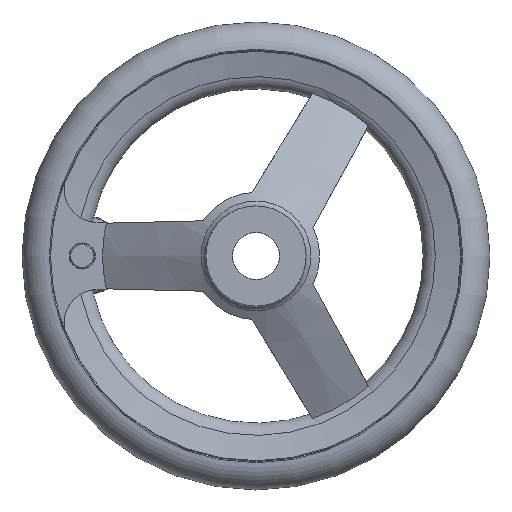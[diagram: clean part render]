
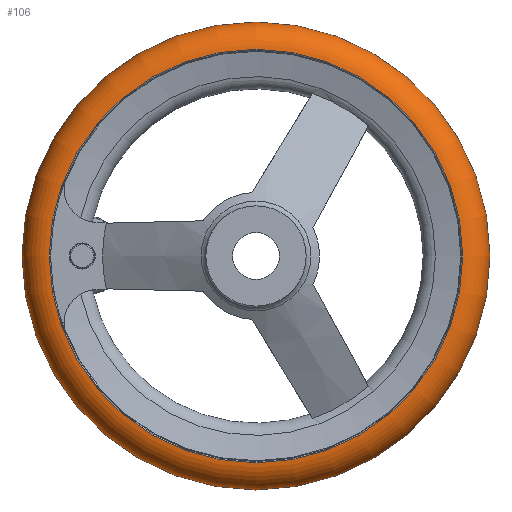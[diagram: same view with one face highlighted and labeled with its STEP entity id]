
A CAD part, left-side view. The second image highlights one B-rep face of the part: STEP entity #106.
In plain terms, the highlighted toroidal (fillet/blend) face has major radius 61.492 mm and minor radius 8.508 mm.
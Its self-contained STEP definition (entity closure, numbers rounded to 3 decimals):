
#106 = ADVANCED_FACE( '', ( #202, #203, #204 ), #205, .T. );
#202 = FACE_BOUND( '', #353, .T. );
#203 = FACE_OUTER_BOUND( '', #354, .T. );
#204 = FACE_OUTER_BOUND( '', #355, .T. );
#205 = TOROIDAL_SURFACE( '', #356, 61.492, 8.508 );
#353 = VERTEX_LOOP( '', #627 );
#354 = EDGE_LOOP( '', ( #628 ) );
#355 = EDGE_LOOP( '', ( #629 ) );
#356 = AXIS2_PLACEMENT_3D( '', #630, #631, #632 );
#627 = VERTEX_POINT( '', #790 );
#628 = ORIENTED_EDGE( '', *, *, #789, .T. );
#629 = ORIENTED_EDGE( '', *, *, #783, .F. );
#630 = CARTESIAN_POINT( '', ( 30.5, 0., 0. ) );
#631 = DIRECTION( '', ( 1., 0., 0. ) );
#632 = DIRECTION( '', ( 0., 1., 0. ) );
#783 = EDGE_CURVE( '', #933, #933, #934, .T. );
#789 = EDGE_CURVE( '', #944, #944, #945, .T. );
#790 = CARTESIAN_POINT( '', ( 30.5, 70., 0. ) );
#933 = VERTEX_POINT( '', #1493 );
#934 = CIRCLE( '', #1494, 61.854 );
#944 = VERTEX_POINT( '', #1504 );
#945 = CIRCLE( '', #1505, 61.854 );
#1493 = CARTESIAN_POINT( '', ( 39., 61.854, 0. ) );
#1494 = AXIS2_PLACEMENT_3D( '', #1636, #1637, #1638 );
#1504 = CARTESIAN_POINT( '', ( 22., 61.854, 0. ) );
#1505 = AXIS2_PLACEMENT_3D( '', #1654, #1655, #1656 );
#1636 = CARTESIAN_POINT( '', ( 39., 0., 0. ) );
#1637 = DIRECTION( '', ( 1., 0., 0. ) );
#1638 = DIRECTION( '', ( 0., 1., 0. ) );
#1654 = CARTESIAN_POINT( '', ( 22., 0., 0. ) );
#1655 = DIRECTION( '', ( 1., 0., 0. ) );
#1656 = DIRECTION( '', ( 0., 1., 0. ) );
